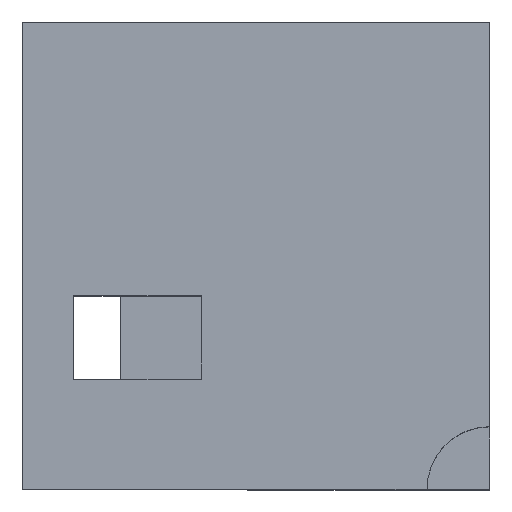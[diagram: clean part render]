
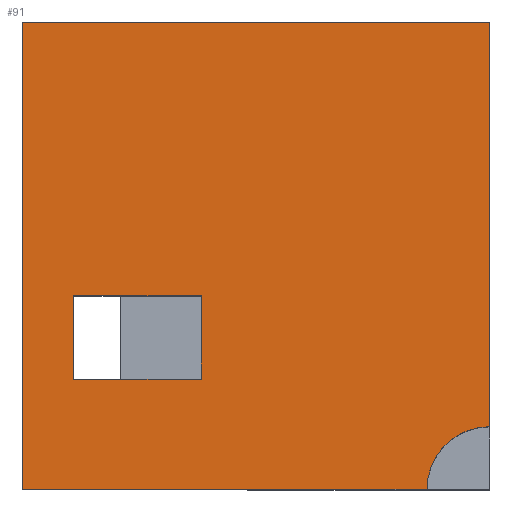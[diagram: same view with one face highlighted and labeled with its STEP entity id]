
A CAD part, top view. The second image highlights one B-rep face of the part: STEP entity #91.
In plain terms, the highlighted planar face has unit normal (0, 0, 1).
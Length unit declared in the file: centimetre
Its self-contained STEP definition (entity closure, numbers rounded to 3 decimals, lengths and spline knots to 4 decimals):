
#8 = VERTEX_POINT ( 'NONE', #521 ) ;
#10 = CARTESIAN_POINT ( 'NONE',  ( 1000., 1000., 1000. ) ) ;
#17 = CARTESIAN_POINT ( 'NONE',  ( 0., 0., 1000. ) ) ;
#24 = CARTESIAN_POINT ( 'NONE',  ( 383.1071, 235.7484, 1000. ) ) ;
#28 = EDGE_CURVE ( 'NONE', #701, #254, #215, .T. ) ;
#33 = EDGE_CURVE ( 'NONE', #257, #8, #708, .T. ) ;
#45 = ORIENTED_EDGE ( 'NONE', *, *, #28, .F. ) ;
#49 = DIRECTION ( 'NONE',  ( 0., -1., 0. ) ) ;
#64 = ORIENTED_EDGE ( 'NONE', *, *, #33, .T. ) ;
#67 = AXIS2_PLACEMENT_3D ( 'NONE', #534, #145, #639 ) ;
#71 = DIRECTION ( 'NONE',  ( 0., 1., 0. ) ) ;
#82 = CARTESIAN_POINT ( 'NONE',  ( 0., 1000., 1000. ) ) ;
#91 = ADVANCED_FACE ( 'NONE', ( #450, #591 ), #769, .T. ) ;
#111 = EDGE_CURVE ( 'NONE', #257, #589, #815, .T. ) ;
#118 = VECTOR ( 'NONE', #456, 100. ) ;
#120 = CARTESIAN_POINT ( 'NONE',  ( 109.2937, 235.7484, 1000. ) ) ;
#125 = VERTEX_POINT ( 'NONE', #383 ) ;
#132 = EDGE_CURVE ( 'NONE', #747, #701, #771, .T. ) ;
#141 = CARTESIAN_POINT ( 'NONE',  ( 383.1071, 235.7484, 1000. ) ) ;
#145 = DIRECTION ( 'NONE',  ( 0., 0., 1. ) ) ;
#169 = VECTOR ( 'NONE', #797, 100. ) ;
#175 = VECTOR ( 'NONE', #628, 100. ) ;
#182 = VECTOR ( 'NONE', #71, 100. ) ;
#202 = DIRECTION ( 'NONE',  ( -1., 0., 0. ) ) ;
#215 = LINE ( 'NONE', #282, #118 ) ;
#224 = CARTESIAN_POINT ( 'NONE',  ( 1000., 0., 1000. ) ) ;
#239 = ORIENTED_EDGE ( 'NONE', *, *, #132, .F. ) ;
#240 = VERTEX_POINT ( 'NONE', #82 ) ;
#254 = VERTEX_POINT ( 'NONE', #423 ) ;
#257 = VERTEX_POINT ( 'NONE', #414 ) ;
#260 = LINE ( 'NONE', #580, #175 ) ;
#282 = CARTESIAN_POINT ( 'NONE',  ( 109.2937, 413.9262, 1000. ) ) ;
#293 = EDGE_CURVE ( 'NONE', #125, #747, #354, .T. ) ;
#297 = ORIENTED_EDGE ( 'NONE', *, *, #616, .F. ) ;
#301 = CARTESIAN_POINT ( 'NONE',  ( 109.2937, 235.7484, 1000. ) ) ;
#314 = CARTESIAN_POINT ( 'NONE',  ( 383.1071, 413.9262, 1000. ) ) ;
#354 = LINE ( 'NONE', #301, #169 ) ;
#356 = EDGE_LOOP ( 'NONE', ( #297, #45, #239, #531 ) ) ;
#383 = CARTESIAN_POINT ( 'NONE',  ( 109.2937, 235.7484, 1000. ) ) ;
#396 = DIRECTION ( 'NONE',  ( 1., 0., 0. ) ) ;
#405 = ORIENTED_EDGE ( 'NONE', *, *, #667, .T. ) ;
#414 = CARTESIAN_POINT ( 'NONE',  ( 1000., 133.8717, 1000. ) ) ;
#415 = EDGE_LOOP ( 'NONE', ( #537, #64, #510, #629, #405 ) ) ;
#423 = CARTESIAN_POINT ( 'NONE',  ( 109.2937, 413.9262, 1000. ) ) ;
#449 = DIRECTION ( 'NONE',  ( 1., 0., 0. ) ) ;
#450 = FACE_OUTER_BOUND ( 'NONE', #415, .T. ) ;
#456 = DIRECTION ( 'NONE',  ( -1., 0., 0. ) ) ;
#466 = DIRECTION ( 'NONE',  ( 0., 0., 1. ) ) ;
#510 = ORIENTED_EDGE ( 'NONE', *, *, #816, .T. ) ;
#516 = CARTESIAN_POINT ( 'NONE',  ( 0., 1000., 1000. ) ) ;
#521 = CARTESIAN_POINT ( 'NONE',  ( 1000., 1000., 1000. ) ) ;
#531 = ORIENTED_EDGE ( 'NONE', *, *, #293, .F. ) ;
#533 = AXIS2_PLACEMENT_3D ( 'NONE', #224, #466, #396 ) ;
#534 = CARTESIAN_POINT ( 'NONE',  ( 0., 0., 1000. ) ) ;
#537 = ORIENTED_EDGE ( 'NONE', *, *, #111, .F. ) ;
#550 = VECTOR ( 'NONE', #449, 100. ) ;
#566 = VECTOR ( 'NONE', #773, 100. ) ;
#580 = CARTESIAN_POINT ( 'NONE',  ( 0., 1000., 1000. ) ) ;
#589 = VERTEX_POINT ( 'NONE', #818 ) ;
#591 = FACE_BOUND ( 'NONE', #356, .T. ) ;
#616 = EDGE_CURVE ( 'NONE', #254, #125, #821, .T. ) ;
#617 = VECTOR ( 'NONE', #202, 100. ) ;
#628 = DIRECTION ( 'NONE',  ( 0., -1., 0. ) ) ;
#629 = ORIENTED_EDGE ( 'NONE', *, *, #762, .T. ) ;
#630 = CARTESIAN_POINT ( 'NONE',  ( 0., 0., 1000. ) ) ;
#637 = LINE ( 'NONE', #516, #617 ) ;
#639 = DIRECTION ( 'NONE',  ( 1., 0., 0. ) ) ;
#667 = EDGE_CURVE ( 'NONE', #675, #589, #684, .T. ) ;
#675 = VERTEX_POINT ( 'NONE', #630 ) ;
#684 = LINE ( 'NONE', #17, #550 ) ;
#701 = VERTEX_POINT ( 'NONE', #314 ) ;
#708 = LINE ( 'NONE', #10, #566 ) ;
#747 = VERTEX_POINT ( 'NONE', #141 ) ;
#762 = EDGE_CURVE ( 'NONE', #240, #675, #260, .T. ) ;
#763 = VECTOR ( 'NONE', #49, 100. ) ;
#769 = PLANE ( 'NONE',  #67 ) ;
#771 = LINE ( 'NONE', #24, #182 ) ;
#773 = DIRECTION ( 'NONE',  ( 0., 1., 0. ) ) ;
#797 = DIRECTION ( 'NONE',  ( 1., 0., 0. ) ) ;
#815 = CIRCLE ( 'NONE', #533, 133.8717 ) ;
#816 = EDGE_CURVE ( 'NONE', #8, #240, #637, .T. ) ;
#818 = CARTESIAN_POINT ( 'NONE',  ( 866.1283, 0., 1000. ) ) ;
#821 = LINE ( 'NONE', #120, #763 ) ;
